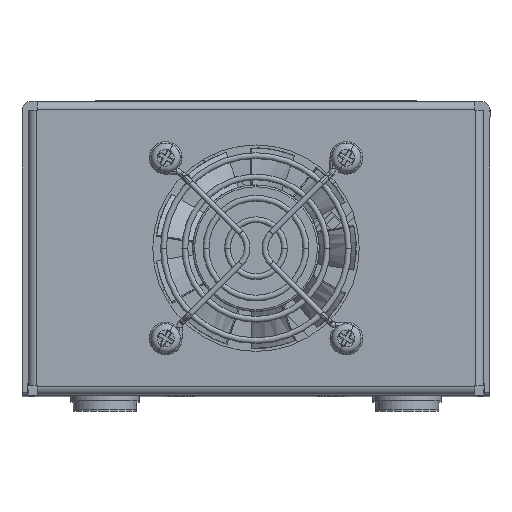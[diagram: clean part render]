
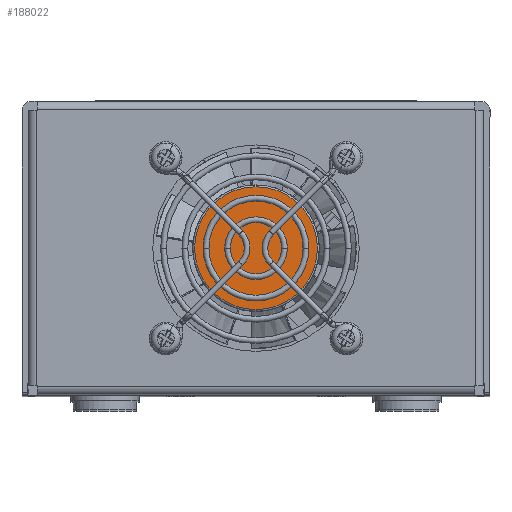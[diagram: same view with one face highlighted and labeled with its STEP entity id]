
A CAD part, top view. The second image highlights one B-rep face of the part: STEP entity #188022.
In plain terms, the highlighted planar face has unit normal (0, 0, 1).
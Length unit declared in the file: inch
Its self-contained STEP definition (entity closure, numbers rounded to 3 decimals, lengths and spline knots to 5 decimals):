
#2120 = VERTEX_POINT ( 'NONE', #11792 ) ;
#2313 = AXIS2_PLACEMENT_3D ( 'NONE', #159367, #60872, #176059 ) ;
#11792 = CARTESIAN_POINT ( 'NONE',  ( 0., 0.93071, 5.6875 ) ) ;
#31994 = CARTESIAN_POINT ( 'NONE',  ( 0., 2.26929, 5.6875 ) ) ;
#57008 = DIRECTION ( 'NONE',  ( 0., 0., 1. ) ) ;
#57009 = EDGE_CURVE ( 'NONE', #2120, #122598, #97927, .T. ) ;
#60872 = DIRECTION ( 'NONE',  ( 0., 0., 1. ) ) ;
#71909 = ORIENTED_EDGE ( 'NONE', *, *, #101060, .T. ) ;
#74278 = AXIS2_PLACEMENT_3D ( 'NONE', #82505, #197691, #99168 ) ;
#76466 = FACE_OUTER_BOUND ( 'NONE', #81112, .T. ) ;
#81112 = EDGE_LOOP ( 'NONE', ( #71909, #147434 ) ) ;
#82505 = CARTESIAN_POINT ( 'NONE',  ( -1.1811, 2.7811, 5.6875 ) ) ;
#97927 = CIRCLE ( 'NONE', #2313, 0.66929 ) ;
#99168 = DIRECTION ( 'NONE',  ( 0., 1., 0. ) ) ;
#101060 = EDGE_CURVE ( 'NONE', #122598, #2120, #185394, .T. ) ;
#122598 = VERTEX_POINT ( 'NONE', #31994 ) ;
#147434 = ORIENTED_EDGE ( 'NONE', *, *, #57009, .T. ) ;
#155493 = CARTESIAN_POINT ( 'NONE',  ( 0., 1.6, 5.6875 ) ) ;
#159367 = CARTESIAN_POINT ( 'NONE',  ( 0., 1.6, 5.6875 ) ) ;
#172093 = DIRECTION ( 'NONE',  ( 0., 1., 0. ) ) ;
#175604 = AXIS2_PLACEMENT_3D ( 'NONE', #155493, #57008, #172093 ) ;
#176059 = DIRECTION ( 'NONE',  ( 0., 1., 0. ) ) ;
#180462 = PLANE ( 'NONE',  #74278 ) ;
#185394 = CIRCLE ( 'NONE', #175604, 0.66929 ) ;
#188022 = ADVANCED_FACE ( 'NONE', ( #76466 ), #180462, .F. ) ;
#197691 = DIRECTION ( 'NONE',  ( 0., 0., -1. ) ) ;
